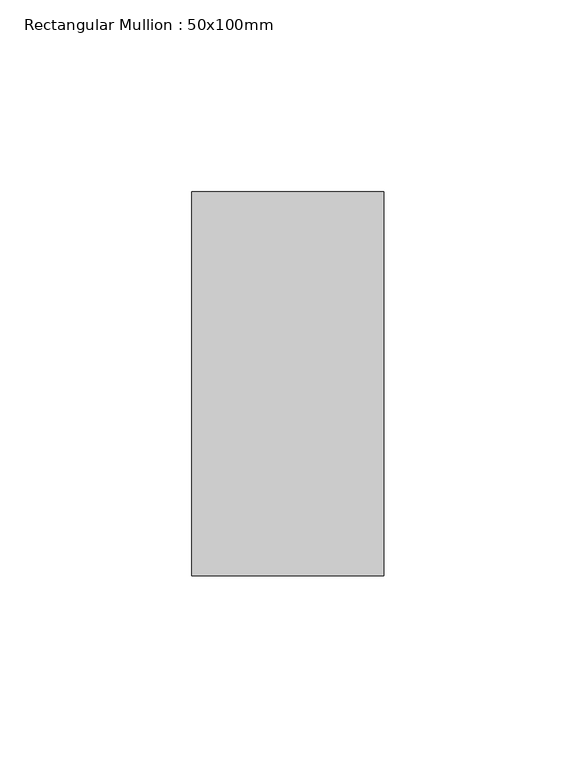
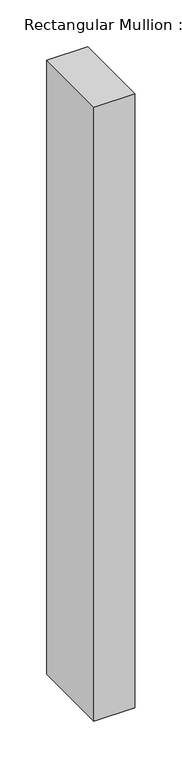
"""IFC4 building model written with IfcOpenShell, lengths in millimetres: member geometry, Rectangular Mullion : 50x100mm."""

from ifc_helpers import new_model, si_unit, frame, origin, place, context, project, spatial, polyline, outline, extrude, source, transform, mapped, element, save


def rectangular_mullion_50x100mm_366ffe95(model_context):
    return source(origin(), model_context, "Body", "SweptSolid", [
        extrude(outline(polyline([(0.0, 50.0), (0.0, -50.0), (-50.0, -50.0), (-50.0, 50.0), (0.0, 50.0)])), frame((0.0, 0.0, -797.9512916), z_axis=(0.0, 0.0, 1.0), x_axis=(1.0, 0.0, 0.0)), (0.0, 0.0, 1.0), 797.9512916),
    ])


if __name__ == "__main__":
    model = new_model("IFC4")
    model_context = context("Model", 3, world=origin())
    ifc_project = project(units=[si_unit("LENGTHUNIT", "METRE", prefix="MILLI")], contexts=[model_context])
    site = spatial("IfcSite", under=ifc_project)
    building = spatial("IfcBuilding", under=site)
    placement = place(None, origin())
    rectangular_mullion_50x100mm_shape = rectangular_mullion_50x100mm_366ffe95(model_context)
    element("IfcMember", 1, ObjectType="Rectangular Mullion : 50x100mm", at=placement, inside=building, context=model_context, shape_type="MappedRepresentation", body=[
        mapped(rectangular_mullion_50x100mm_shape, transform((0.0, 0.0, 0.0), x_axis=(1.0, 0.0, 0.0), y_axis=(0.0, 1.0, 0.0), z_axis=(0.0, 0.0, 1.0))),
    ])
    save(model, "model.ifc")
